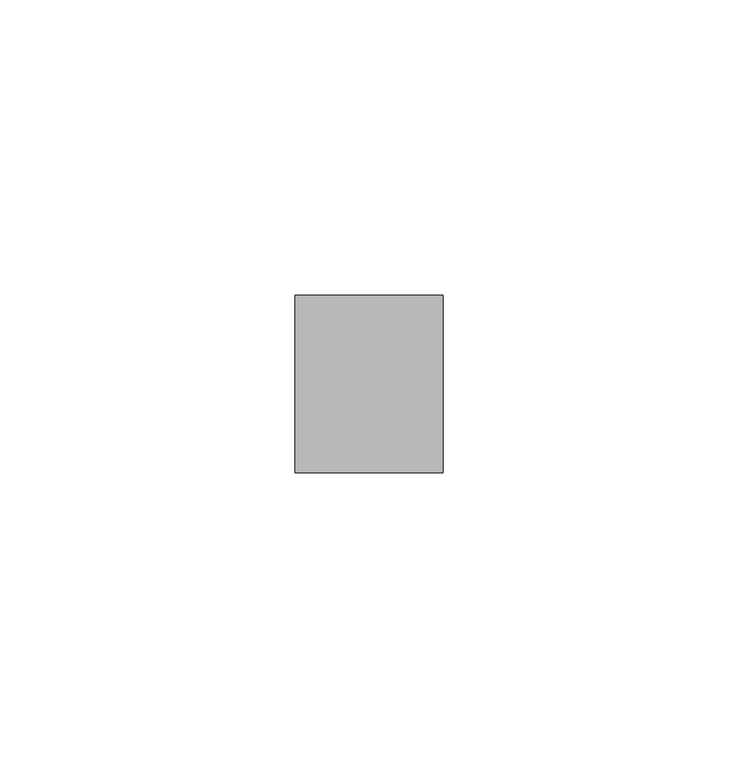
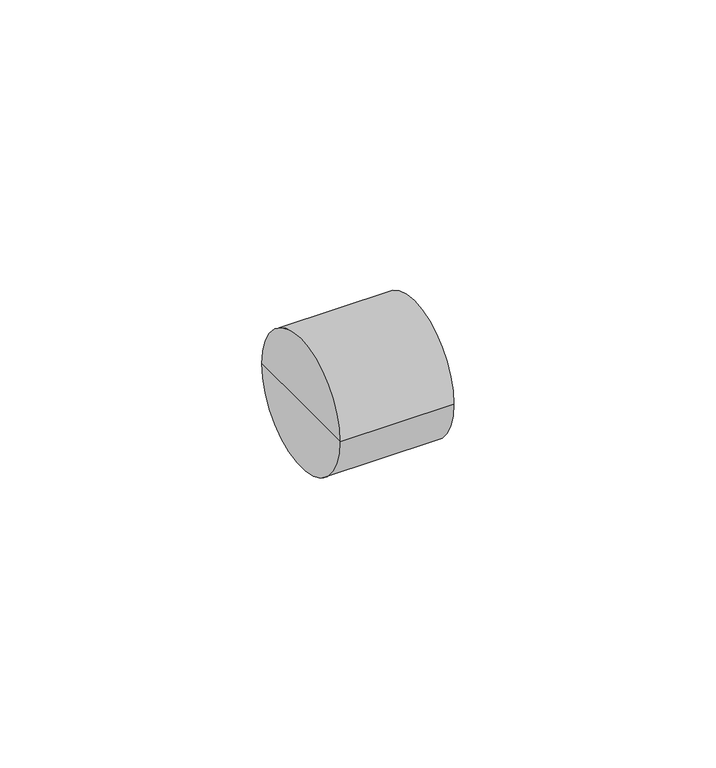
"""IFC4 building model written with IfcOpenShell, lengths in millimetres: pipe fitting geometry, KAN-therm Push mosiężny pierścień nasuwany : KAN-therm Push mosiężny pierścień nasuwany."""

from ifc_helpers import new_model, si_unit, frame, origin, place, context, project, spatial, circle_curve, source, transform, mapped, element, save
from ifc_brep_helpers import plane_surface, cylinder_surface, advanced_brep


def pipe_fitting_4cc90f57(model_context):
    return source(origin(), model_context, "Body", "AdvancedBrep", [
        advanced_brep(
        [(25.0, -15.0, 0.0), (25.0, 15.0, 0.0), (25.0, 0.0, 0.0), (0.0, -15.0, 0.0), (0.0, 15.0, 0.0), (0.0, 0.0, 0.0)],
        [
            (0, 1, circle_curve(frame((25.0, 0.0, 0.0), z_axis=(1.0, 0.0, 0.0), x_axis=(0.0, 1.0, 0.0)), 15.0)),
            (1, 2),
            (2, 0),
            (1, 0, circle_curve(frame((25.0, 0.0, 0.0), z_axis=(1.0, 0.0, 0.0), x_axis=(0.0, 1.0, 0.0)), 15.0)),
            (3, 4, circle_curve(frame((0.0, 0.0, 0.0), z_axis=(1.0, 0.0, 0.0), x_axis=(0.0, 1.0, 0.0)), 15.0)),
            (4, 1),
            (0, 3),
            (4, 3, circle_curve(frame((0.0, 0.0, 0.0), z_axis=(1.0, 0.0, 0.0), x_axis=(0.0, 1.0, 0.0)), 15.0)),
            (5, 4),
            (3, 5),
        ],
        [
            plane_surface(frame((25.0, 0.0, 0.0), z_axis=(1.0, 0.0, 0.0), x_axis=(0.0, 1.0, 0.0))),
            cylinder_surface(frame((2002.0, 0.0, 0.0), z_axis=(-1.0, 0.0, 0.0), x_axis=(0.0, 1.0, 0.0)), 15.0),
            plane_surface(frame((0.0, 0.0, 0.0), z_axis=(-1.0, 0.0, 0.0), x_axis=(0.0, 1.0, 0.0))),
        ],
        [
            (0, [[1, 2, 3]]),
            (0, [[4, -3, -2]]),
            (1, [[5, 6, -1, 7]]),
            (1, [[8, -7, -4, -6]]),
            (2, [[9, -5, 10]]),
            (2, [[-10, -8, -9]]),
        ],
    ),
    ])


if __name__ == "__main__":
    model = new_model("IFC4")
    model_context = context("Model", 3, world=origin())
    ifc_project = project(units=[si_unit("LENGTHUNIT", "METRE", prefix="MILLI")], contexts=[model_context])
    site = spatial("IfcSite", under=ifc_project)
    building = spatial("IfcBuilding", under=site)
    placement = place(None, origin())
    pipe_fitting_shape = pipe_fitting_4cc90f57(model_context)
    element("IfcPipeFitting", 1, ObjectType="KAN-therm Push mosiężny pierścień nasuwany : KAN-therm Push mosiężny pierścień nasuwany", at=placement, inside=building, context=model_context, shape_type="MappedRepresentation", body=[
        mapped(pipe_fitting_shape, transform((0.0, 0.0, 0.0), x_axis=(1.0, 0.0, 0.0), y_axis=(0.0, 1.0, 0.0), z_axis=(0.0, 0.0, 1.0))),
    ])
    save(model, "model.ifc")
